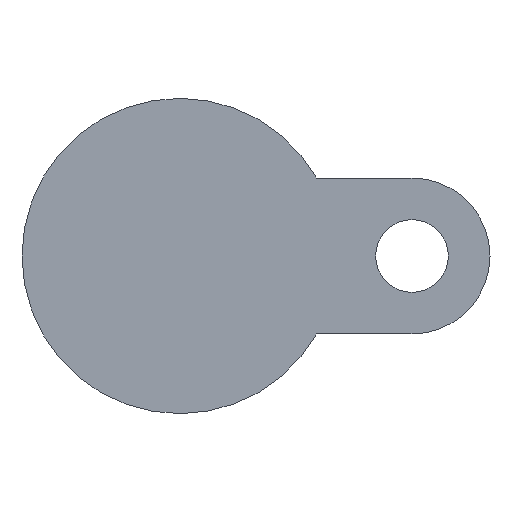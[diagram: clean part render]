
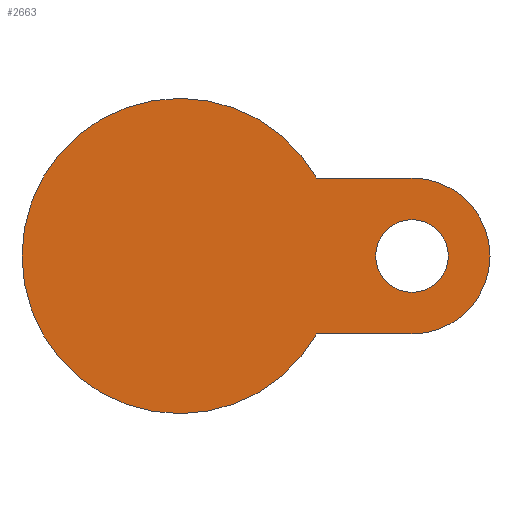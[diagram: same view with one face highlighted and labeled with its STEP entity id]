
A CAD part, front view. The second image highlights one B-rep face of the part: STEP entity #2663.
In plain terms, the highlighted planar face has unit normal (0, -1, 0).
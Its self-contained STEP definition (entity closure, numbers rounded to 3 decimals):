
#155 = EDGE_LOOP ( 'NONE', ( #2727, #3920 ) ) ;
#334 = DIRECTION ( 'NONE',  ( 1., 0., 0. ) ) ;
#403 = VERTEX_POINT ( 'NONE', #5127 ) ;
#477 = CIRCLE ( 'NONE', #3056, 8.75 ) ;
#545 = CIRCLE ( 'NONE', #2321, 18.8 ) ;
#611 = CARTESIAN_POINT ( 'NONE',  ( 33.024, -17., 18.8 ) ) ;
#684 = DIRECTION ( 'NONE',  ( 1., 0., 0. ) ) ;
#698 = CIRCLE ( 'NONE', #5129, 38. ) ;
#726 = DIRECTION ( 'NONE',  ( -1., 0., 0. ) ) ;
#753 = CIRCLE ( 'NONE', #4042, 8.75 ) ;
#805 = VECTOR ( 'NONE', #684, 1000. ) ;
#882 = DIRECTION ( 'NONE',  ( 0., -1., 0. ) ) ;
#965 = DIRECTION ( 'NONE',  ( 1., 0., 0. ) ) ;
#1047 = EDGE_CURVE ( 'NONE', #5228, #2773, #698, .T. ) ;
#1102 = CARTESIAN_POINT ( 'NONE',  ( 64.75, -17., 0. ) ) ;
#1202 = DIRECTION ( 'NONE',  ( 0., -1., 0. ) ) ;
#1211 = VERTEX_POINT ( 'NONE', #611 ) ;
#1225 = CARTESIAN_POINT ( 'NONE',  ( 56., -17., 0. ) ) ;
#1248 = CIRCLE ( 'NONE', #2409, 18.8 ) ;
#1253 = CARTESIAN_POINT ( 'NONE',  ( 33.024, -17., -18.8 ) ) ;
#1279 = DIRECTION ( 'NONE',  ( 1., 0., 0. ) ) ;
#1316 = ORIENTED_EDGE ( 'NONE', *, *, #5432, .T. ) ;
#1411 = DIRECTION ( 'NONE',  ( -1., 0., 0. ) ) ;
#1433 = ORIENTED_EDGE ( 'NONE', *, *, #5450, .T. ) ;
#1478 = CARTESIAN_POINT ( 'NONE',  ( 0., -17., 0. ) ) ;
#1559 = EDGE_CURVE ( 'NONE', #5408, #2814, #477, .T. ) ;
#1646 = ORIENTED_EDGE ( 'NONE', *, *, #4774, .T. ) ;
#1750 = CARTESIAN_POINT ( 'NONE',  ( 47.25, -17., 0. ) ) ;
#1894 = EDGE_CURVE ( 'NONE', #2814, #5408, #753, .T. ) ;
#2053 = CARTESIAN_POINT ( 'NONE',  ( 0., -17., 0. ) ) ;
#2155 = CARTESIAN_POINT ( 'NONE',  ( 0., -17., 0. ) ) ;
#2177 = ORIENTED_EDGE ( 'NONE', *, *, #3359, .F. ) ;
#2214 = FACE_OUTER_BOUND ( 'NONE', #4039, .T. ) ;
#2218 = VECTOR ( 'NONE', #1411, 1000. ) ;
#2278 = DIRECTION ( 'NONE',  ( 0., -1., 0. ) ) ;
#2321 = AXIS2_PLACEMENT_3D ( 'NONE', #1225, #1202, #5113 ) ;
#2409 = AXIS2_PLACEMENT_3D ( 'NONE', #5475, #4702, #1279 ) ;
#2454 = VERTEX_POINT ( 'NONE', #3388 ) ;
#2456 = CARTESIAN_POINT ( 'NONE',  ( 56., -17., 0. ) ) ;
#2573 = CARTESIAN_POINT ( 'NONE',  ( 56., -17., 18.8 ) ) ;
#2663 = ADVANCED_FACE ( 'NONE', ( #2214, #4775 ), #4690, .T. ) ;
#2671 = VERTEX_POINT ( 'NONE', #2573 ) ;
#2727 = ORIENTED_EDGE ( 'NONE', *, *, #1559, .F. ) ;
#2773 = VERTEX_POINT ( 'NONE', #4832 ) ;
#2814 = VERTEX_POINT ( 'NONE', #1750 ) ;
#2877 = LINE ( 'NONE', #4500, #805 ) ;
#2923 = AXIS2_PLACEMENT_3D ( 'NONE', #2155, #882, #965 ) ;
#3056 = AXIS2_PLACEMENT_3D ( 'NONE', #2456, #4149, #334 ) ;
#3127 = ORIENTED_EDGE ( 'NONE', *, *, #3564, .T. ) ;
#3176 = DIRECTION ( 'NONE',  ( 0., 1., 0. ) ) ;
#3359 = EDGE_CURVE ( 'NONE', #2773, #1211, #5497, .T. ) ;
#3388 = CARTESIAN_POINT ( 'NONE',  ( 74.8, -17., 0. ) ) ;
#3464 = AXIS2_PLACEMENT_3D ( 'NONE', #1478, #3176, #726 ) ;
#3564 = EDGE_CURVE ( 'NONE', #2671, #1211, #3944, .T. ) ;
#3781 = DIRECTION ( 'NONE',  ( 0., 1., 0. ) ) ;
#3920 = ORIENTED_EDGE ( 'NONE', *, *, #1894, .F. ) ;
#3944 = LINE ( 'NONE', #5132, #2218 ) ;
#3975 = DIRECTION ( 'NONE',  ( 1., 0., 0. ) ) ;
#4039 = EDGE_LOOP ( 'NONE', ( #5301, #1646, #1316, #1433, #3127, #2177 ) ) ;
#4042 = AXIS2_PLACEMENT_3D ( 'NONE', #4400, #2278, #3975 ) ;
#4149 = DIRECTION ( 'NONE',  ( 0., -1., 0. ) ) ;
#4400 = CARTESIAN_POINT ( 'NONE',  ( 56., -17., 0. ) ) ;
#4500 = CARTESIAN_POINT ( 'NONE',  ( 56., -17., -18.8 ) ) ;
#4690 = PLANE ( 'NONE',  #2923 ) ;
#4702 = DIRECTION ( 'NONE',  ( 0., -1., 0. ) ) ;
#4774 = EDGE_CURVE ( 'NONE', #5228, #403, #2877, .T. ) ;
#4775 = FACE_BOUND ( 'NONE', #155, .T. ) ;
#4832 = CARTESIAN_POINT ( 'NONE',  ( -38., -17., 0. ) ) ;
#5113 = DIRECTION ( 'NONE',  ( 1., 0., 0. ) ) ;
#5127 = CARTESIAN_POINT ( 'NONE',  ( 56., -17., -18.8 ) ) ;
#5129 = AXIS2_PLACEMENT_3D ( 'NONE', #2053, #3781, #5446 ) ;
#5132 = CARTESIAN_POINT ( 'NONE',  ( 20.593, -17., 18.8 ) ) ;
#5228 = VERTEX_POINT ( 'NONE', #1253 ) ;
#5301 = ORIENTED_EDGE ( 'NONE', *, *, #1047, .F. ) ;
#5408 = VERTEX_POINT ( 'NONE', #1102 ) ;
#5432 = EDGE_CURVE ( 'NONE', #403, #2454, #545, .T. ) ;
#5446 = DIRECTION ( 'NONE',  ( -1., 0., 0. ) ) ;
#5450 = EDGE_CURVE ( 'NONE', #2454, #2671, #1248, .T. ) ;
#5475 = CARTESIAN_POINT ( 'NONE',  ( 56., -17., 0. ) ) ;
#5497 = CIRCLE ( 'NONE', #3464, 38. ) ;
